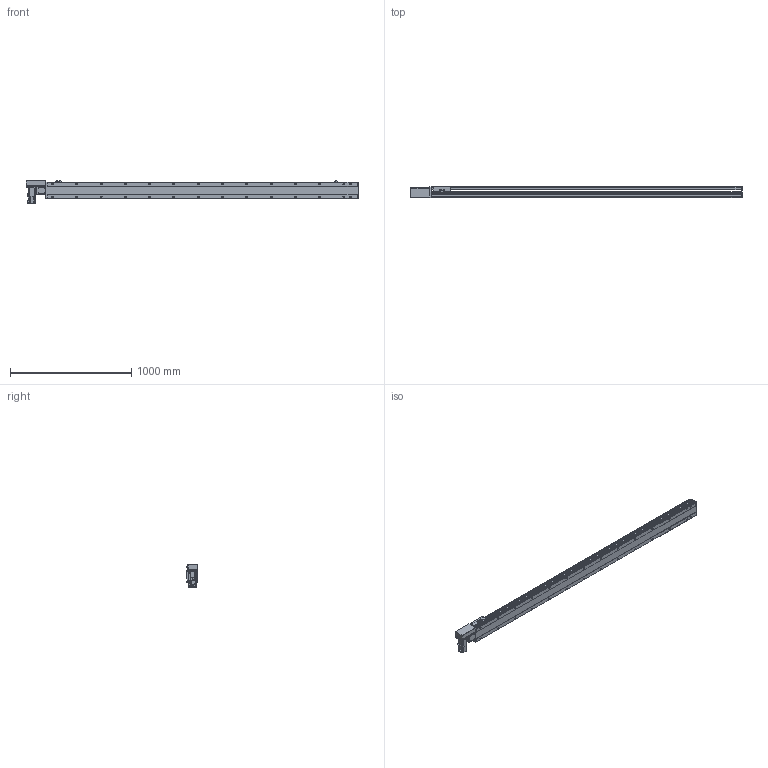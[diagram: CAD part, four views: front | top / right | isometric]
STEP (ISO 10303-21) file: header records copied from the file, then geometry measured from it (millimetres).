
FILE_DESCRIPTION( ( 'STEP AP214' ), '1' );
FILE_NAME( 'x:/temp/worker_6/temp/exporttempdir_5396_72_V7sVu/format_0/PBS140S-P40-S2300-R-T40-C1-N(0).stp', '2022-06-09T00:19:18', ( 'License CC BY-ND 4.0' ), ( 'CADENAS' ), ' ', 'PARTsolutions', ' ' );
FILE_SCHEMA( ( 'AUTOMOTIVE_DESIGN { 1 0 10303 214 1 1 1 1 }' ) );
Length unit declared in the file: millimetre
Products named in the file (7): PBS140S-P40-S2300-R-T40-C1-N(0); _PBS140S-S2300()_body; _PBS140ST-R_motors; _T40-p1; _PBS140S_sliser; _PBS140S_plant; _PBS140S_sensor
Assembly tree (8 placements, depth 2):
  PBS140S-P40-S2300-R-T40-C1-N(0)
    _PBS140S-S2300()_body
    _PBS140ST-R_motors
    _T40-p1
    _PBS140S_sliser
    _PBS140S_plant
    _PBS140S_sensor  x3
Bounding box: 2733 x 93 x 189.7 mm (x, y, z)
Volume: 12957642.5 mm3; surface area: 2188484.9 mm2
Topology: 8 solids, 8 shells, 1195 faces, 3151 edges, 2061 vertices
Faces by surface type: plane 738, cylinder 393, cone 54, sphere 8, torus 2
Full cylindrical faces by diameter (mm): 3.242 x4, 4 x2, 4.134 x4, 4.4 x8, 4.5 x2, 4.8 x4, 4.917 x36, 5.5 x7, 6 x2, 7 x30, 7.5 x8, 8 x12, 8.5 x4, 10.5 x28, 14 x1, 30 x2, 50 x2
Entity records: 44188 total; most frequent: CARTESIAN_POINT 7414, DIRECTION 5768, ORIENTED_EDGE 5422, EDGE_CURVE 2711, AXIS2_PLACEMENT_3D 2039, VERTEX_POINT 1897, LINE 1690, VECTOR 1690
